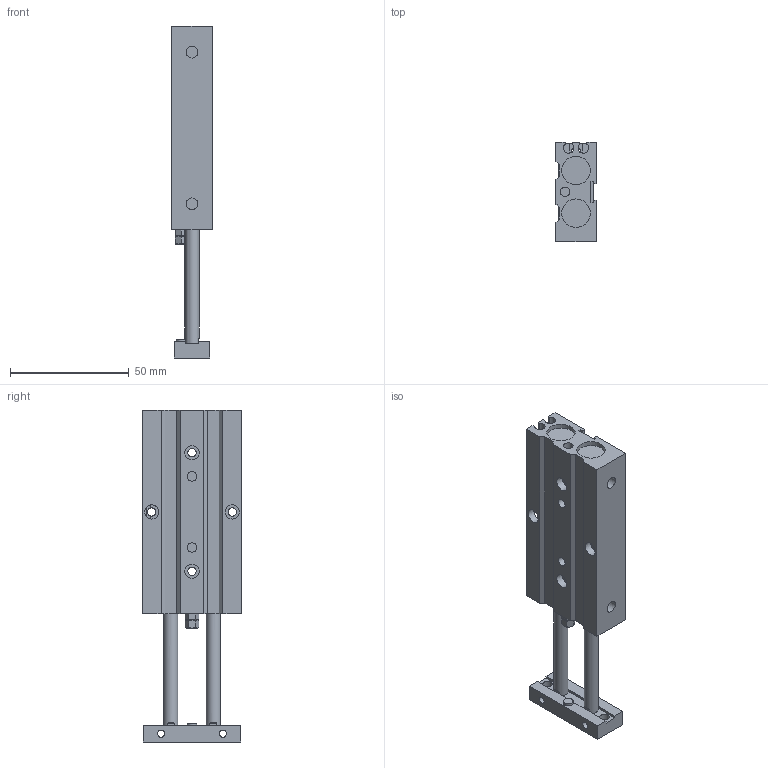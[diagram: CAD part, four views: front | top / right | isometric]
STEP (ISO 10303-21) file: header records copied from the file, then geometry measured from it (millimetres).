
FILE_DESCRIPTION((''),'2;1');
FILE_NAME('I:\3D電子目錄\氣缸\TD\TD10\TD10\TD10x40.stp','2007-08-06T09:34:39',('Administrator'),(''),'Autodesk Inventor 2008','Autodesk Inventor 2008','');
FILE_SCHEMA(('AUTOMOTIVE_DESIGN { 1 0 10303 214 1 1 1 1 }'));
Length unit declared in the file: millimetre
Products named in the file (1): TD10X40
Bounding box: 17 x 42 x 140 mm (x, y, z)
Volume: 59254.1 mm3; surface area: 20195.6 mm2
Topology: 1 solids, 3 shells, 153 faces, 377 edges, 246 vertices
Faces by surface type: plane 99, cylinder 32, bspline 13, cone 7, torus 2
Full cylindrical faces by diameter (mm): 3 x2, 3.5 x4, 4 x4, 4.011 x2, 5 x4, 6 x8, 7 x2, 12 x4
Entity records: 4542 total; most frequent: CARTESIAN_POINT 1135, DIRECTION 662, ORIENTED_EDGE 644, EDGE_CURVE 322, EDGE_LOOP 238, VERTEX_POINT 234, AXIS2_PLACEMENT_3D 229, VECTOR 204
